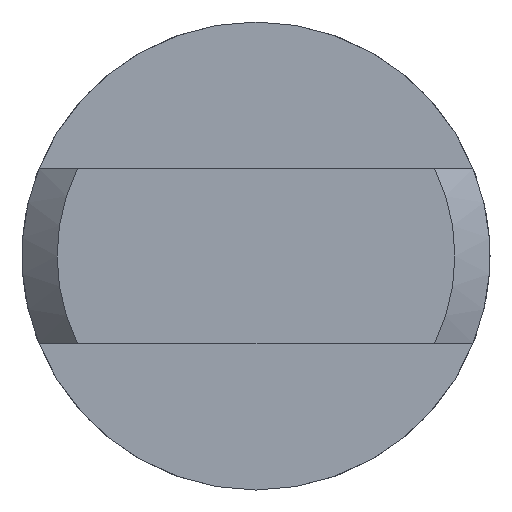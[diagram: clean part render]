
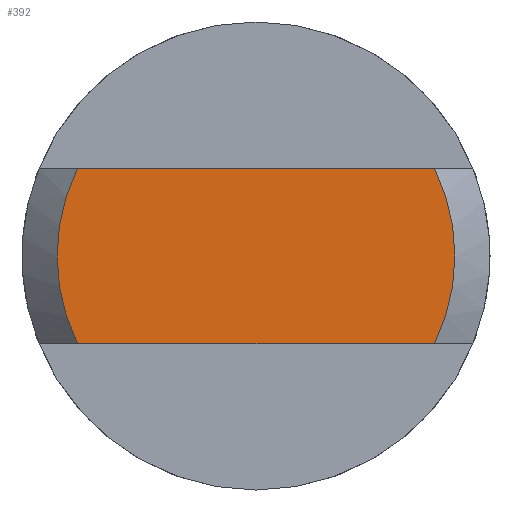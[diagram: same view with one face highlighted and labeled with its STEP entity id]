
A CAD part, left-side view. The second image highlights one B-rep face of the part: STEP entity #392.
In plain terms, the highlighted planar face has unit normal (-1, 0, 0).
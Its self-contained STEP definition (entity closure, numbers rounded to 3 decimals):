
#5 = VERTEX_POINT ( 'NONE', #425 ) ;
#27 = DIRECTION ( 'NONE',  ( -1., 0., 0. ) ) ;
#55 = CARTESIAN_POINT ( 'NONE',  ( -5.5, 0., 0. ) ) ;
#135 = LINE ( 'NONE', #330, #471 ) ;
#146 = LINE ( 'NONE', #205, #168 ) ;
#168 = VECTOR ( 'NONE', #208, 1000. ) ;
#173 = EDGE_CURVE ( 'NONE', #647, #778, #146, .T. ) ;
#200 = CARTESIAN_POINT ( 'NONE',  ( -5.5, 1.526, 0.75 ) ) ;
#205 = CARTESIAN_POINT ( 'NONE',  ( -5.5, 0., 0.75 ) ) ;
#208 = DIRECTION ( 'NONE',  ( 0., 1., 0. ) ) ;
#213 = AXIS2_PLACEMENT_3D ( 'NONE', #55, #258, #377 ) ;
#219 = DIRECTION ( 'NONE',  ( 0., 0., -1. ) ) ;
#247 = FACE_OUTER_BOUND ( 'NONE', #431, .T. ) ;
#258 = DIRECTION ( 'NONE',  ( -1., 0., 0. ) ) ;
#295 = ORIENTED_EDGE ( 'NONE', *, *, #173, .T. ) ;
#301 = DIRECTION ( 'NONE',  ( 0., 0., -1. ) ) ;
#330 = CARTESIAN_POINT ( 'NONE',  ( -5.5, 0., -0.75 ) ) ;
#332 = AXIS2_PLACEMENT_3D ( 'NONE', #412, #27, #219 ) ;
#377 = DIRECTION ( 'NONE',  ( 0., 0., -1. ) ) ;
#392 = ADVANCED_FACE ( 'NONE', ( #247 ), #675, .F. ) ;
#412 = CARTESIAN_POINT ( 'NONE',  ( -5.5, 0., 0. ) ) ;
#425 = CARTESIAN_POINT ( 'NONE',  ( -5.5, 1.526, -0.75 ) ) ;
#431 = EDGE_LOOP ( 'NONE', ( #295, #559, #640, #738 ) ) ;
#438 = CIRCLE ( 'NONE', #213, 1.7 ) ;
#471 = VECTOR ( 'NONE', #637, 1000. ) ;
#559 = ORIENTED_EDGE ( 'NONE', *, *, #567, .T. ) ;
#567 = EDGE_CURVE ( 'NONE', #778, #5, #726, .T. ) ;
#612 = DIRECTION ( 'NONE',  ( 1., 0., 0. ) ) ;
#628 = VERTEX_POINT ( 'NONE', #698 ) ;
#637 = DIRECTION ( 'NONE',  ( 0., -1., 0. ) ) ;
#640 = ORIENTED_EDGE ( 'NONE', *, *, #685, .T. ) ;
#647 = VERTEX_POINT ( 'NONE', #759 ) ;
#675 = PLANE ( 'NONE',  #779 ) ;
#678 = CARTESIAN_POINT ( 'NONE',  ( -5.5, 0., 0. ) ) ;
#685 = EDGE_CURVE ( 'NONE', #5, #628, #135, .T. ) ;
#698 = CARTESIAN_POINT ( 'NONE',  ( -5.5, -1.526, -0.75 ) ) ;
#726 = CIRCLE ( 'NONE', #332, 1.7 ) ;
#738 = ORIENTED_EDGE ( 'NONE', *, *, #799, .T. ) ;
#759 = CARTESIAN_POINT ( 'NONE',  ( -5.5, -1.526, 0.75 ) ) ;
#778 = VERTEX_POINT ( 'NONE', #200 ) ;
#779 = AXIS2_PLACEMENT_3D ( 'NONE', #678, #612, #301 ) ;
#799 = EDGE_CURVE ( 'NONE', #628, #647, #438, .T. ) ;
